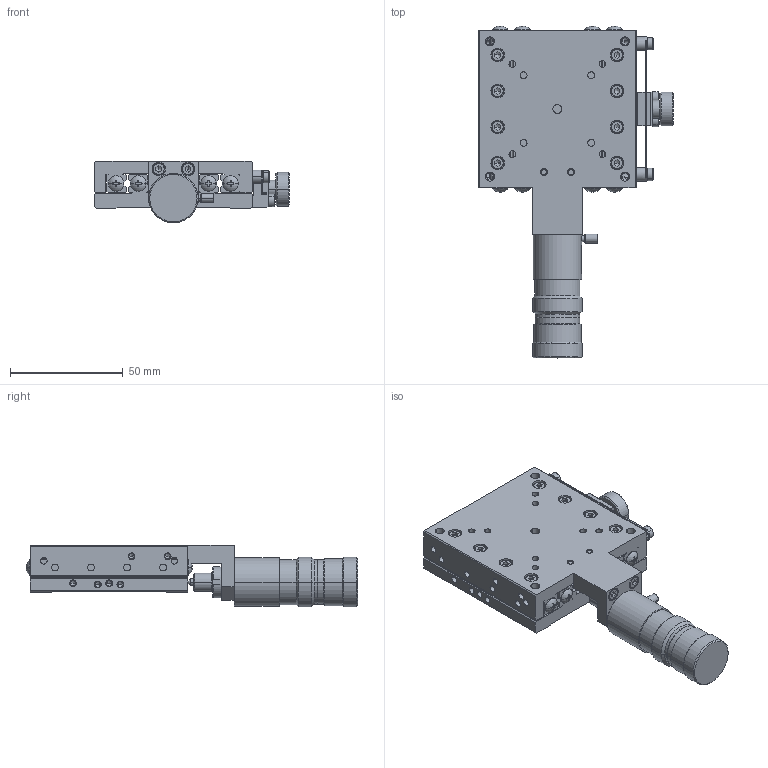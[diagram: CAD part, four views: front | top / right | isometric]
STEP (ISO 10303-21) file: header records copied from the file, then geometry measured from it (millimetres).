
FILE_DESCRIPTION (( 'STEP AP214' ), '1' );
FILE_NAME ('XM07A-C3Z-CL.STEP', '2009-05-11T05:31:44', ( ' ' ), ( ' ' ), 'SwSTEP 2.0', 'SolidWorks 2008', '' );
FILE_SCHEMA (( 'AUTOMOTIVE_DESIGN' ));
Length unit declared in the file: millimetre
Products named in the file (5): 001490-1023(3D)-3; 001490-1023(3D)-Part-2-3; 001490-1023(3D)-Part-1-3; 001490-1011(3D)-3; XM07A-C3Z-CL
Assembly tree (4 placements, depth 3):
  XM07A-C3Z-CL
    001490-1011(3D)-3
    001490-1023(3D)-3
      001490-1023(3D)-Part-1-3
      001490-1023(3D)-Part-2-3
Bounding box: 86.5 x 147.37 x 27.5 mm (x, y, z)
Volume: 109809.7 mm3; surface area: 52426.6 mm2
Topology: 3 solids, 40 shells, 1746 faces, 4179 edges, 2512 vertices
Faces by surface type: plane 788, cylinder 557, cone 368, sphere 17, torus 16
Entity records: 50894 total; most frequent: CARTESIAN_POINT 9617, DIRECTION 9161, ORIENTED_EDGE 8170, EDGE_CURVE 4085, AXIS2_PLACEMENT_3D 3518, VERTEX_POINT 2507, LINE 2125, VECTOR 2125
